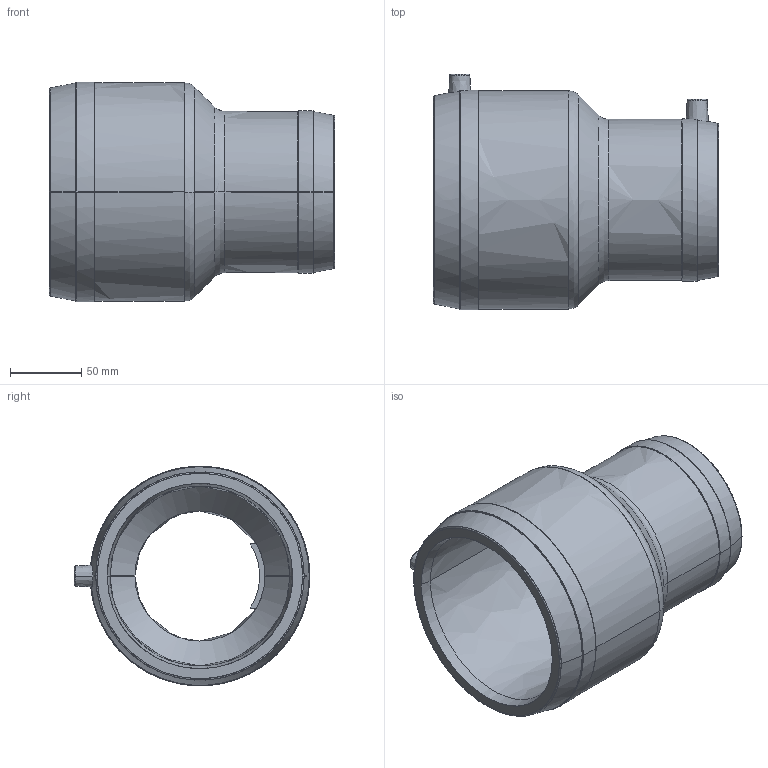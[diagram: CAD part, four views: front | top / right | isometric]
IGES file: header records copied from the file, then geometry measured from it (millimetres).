
Start section:  PTC IGES file: mr_d125-090_01.igs
Global section: file name: mr_d125-090_01.igs; native system: Pro/ENGINEER by Parametric Technology Corporation; preprocessor: 2011490; author: mtunjic; organization: Unknown; date: 20130816.162809; units: millimetre
Bounding box: 200 x 165.15 x 154 mm (x, y, z)
Surface area: 166766.5 mm2 (no closed solid volume)
Topology: 0 solids, 0 shells, 184 faces, 930 edges, 930 vertices
Faces by surface type: bspline 184
